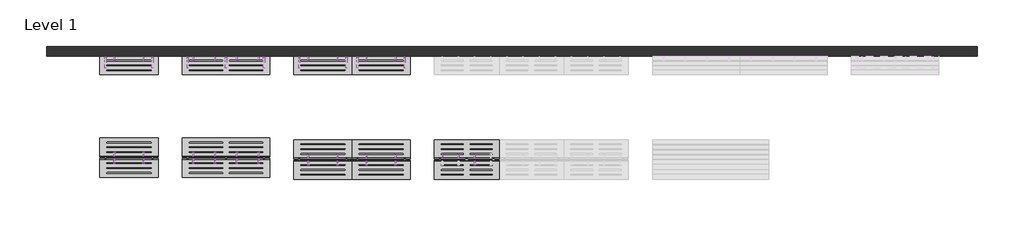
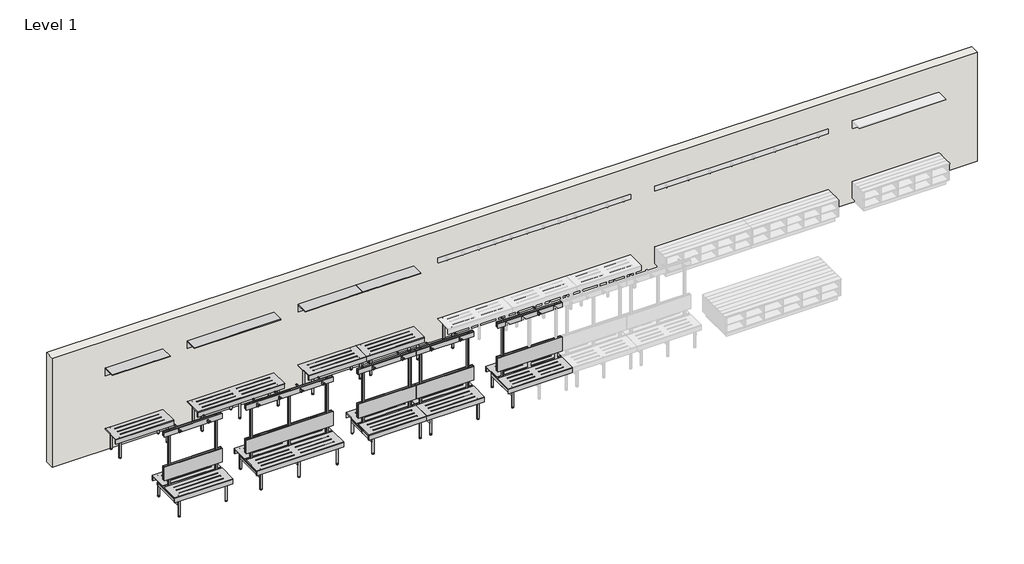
# One storey, part 1 of 2: 72 furniture elements, 1 wall.
"""IFC4 building model written with IfcOpenShell, lengths in millimetres."""

from ifc_helpers import new_model, si_unit, origin, origin_with_axes, place, context, project, spatial, polyline, outline, extrude, transform, mapped, element, save
from components import bracket_7d752e66, standard_dd65e5c9, standard_a7376189, standard_561e798c, standard_2dcb62da, standard_f5ae554c, standard_908f37bb, standard_f786651c, standard_a5d48519, standard_e0fe0424, standard_9dd12805

model = new_model("IFC4")

# Units and contexts
model_context = context("Model", 3, world=origin())
ifc_project = project(units=[si_unit("LENGTHUNIT", "METRE", prefix="MILLI")], contexts=[model_context])

# Site, building, storey
site = spatial("IfcSite", under=ifc_project)
building = spatial("IfcBuilding", under=site)
storey = spatial("IfcBuildingStorey", under=building, Name="Level 1", Elevation=0.0)

# Furniture
placement = place(None, origin())
bracket_shape = bracket_7d752e66(model_context)
element("IfcFurniture", 1, ObjectType="X_Bench-Bracket-Duracube-Shelving : Bracket", at=placement, inside=storey, context=model_context, shape_type="MappedRepresentation", body=[
    mapped(bracket_shape, transform((-13169.1683896, 4193.679514, 1717.0), x_axis=(1.0, 0.0, 0.0), y_axis=(0.0, 0.0, 1.0), z_axis=(0.0, -1.0, 0.0))),
])
element("IfcFurniture", 2, ObjectType="X_Bench-Bracket-Duracube-Shelving : Bracket", at=placement, inside=storey, context=model_context, shape_type="MappedRepresentation", body=[
    mapped(bracket_shape, transform((-12382.6683896, 4193.679514, 1717.0), x_axis=(1.0, 0.0, 0.0), y_axis=(0.0, 0.0, 1.0), z_axis=(0.0, -1.0, 0.0))),
])
element("IfcFurniture", 3, ObjectType="X_Bench-Bracket-Duracube-Shelving : Bracket", at=placement, inside=storey, context=model_context, shape_type="MappedRepresentation", body=[
    mapped(bracket_shape, transform((-11596.1683896, 4193.679514, 1717.0), x_axis=(1.0, 0.0, 0.0), y_axis=(0.0, 0.0, 1.0), z_axis=(0.0, -1.0, 0.0))),
])
element("IfcFurniture", 4, ObjectType="X_Bench-Bracket-Duracube-Shelving : Bracket", at=placement, inside=storey, context=model_context, shape_type="MappedRepresentation", body=[
    mapped(bracket_shape, transform((-9669.1683896, 4193.679514, 1717.0), x_axis=(1.0, 0.0, 0.0), y_axis=(0.0, 0.0, 1.0), z_axis=(0.0, -1.0, 0.0))),
])
element("IfcFurniture", 5, ObjectType="X_Bench-Bracket-Duracube-Shelving : Bracket", at=placement, inside=storey, context=model_context, shape_type="MappedRepresentation", body=[
    mapped(bracket_shape, transform((-8696.1683896, 4193.679514, 1717.0), x_axis=(1.0, 0.0, 0.0), y_axis=(0.0, 0.0, 1.0), z_axis=(0.0, -1.0, 0.0))),
])
element("IfcFurniture", 6, ObjectType="X_Bench-Bracket-Duracube-Shelving : Bracket", at=placement, inside=storey, context=model_context, shape_type="MappedRepresentation", body=[
    mapped(bracket_shape, transform((-10869.1683896, 4193.679514, 1717.0), x_axis=(1.0, 0.0, 0.0), y_axis=(0.0, 0.0, 1.0), z_axis=(0.0, -1.0, 0.0))),
])
element("IfcFurniture", 7, ObjectType="X_Bench-Bracket-Duracube-Shelving : Bracket", at=placement, inside=storey, context=model_context, shape_type="MappedRepresentation", body=[
    mapped(bracket_shape, transform((-9896.1683896, 4193.679514, 1717.0), x_axis=(1.0, 0.0, 0.0), y_axis=(0.0, 0.0, 1.0), z_axis=(0.0, -1.0, 0.0))),
])
element("IfcFurniture", 8, ObjectType="X_Bench-Bracket-Duracube-Shelving : Bracket", at=placement, inside=storey, context=model_context, shape_type="MappedRepresentation", body=[
    mapped(bracket_shape, transform((-14869.1683896, 4193.679514, 1717.0), x_axis=(1.0, 0.0, 0.0), y_axis=(0.0, 0.0, 1.0), z_axis=(0.0, -1.0, 0.0))),
])
element("IfcFurniture", 9, ObjectType="X_Bench-Bracket-Duracube-Shelving : Bracket", at=placement, inside=storey, context=model_context, shape_type="MappedRepresentation", body=[
    mapped(bracket_shape, transform((-13896.1683896, 4193.679514, 1717.0), x_axis=(1.0, 0.0, 0.0), y_axis=(0.0, 0.0, 1.0), z_axis=(0.0, -1.0, 0.0))),
])
standard_shape = standard_dd65e5c9(model_context)
element("IfcFurniture", 10, ObjectType="X_Partition-Robe Hook-Duracube-Door Stop : Standard", at=placement, inside=storey, context=model_context, shape_type="MappedRepresentation", body=[
    mapped(standard_shape, transform((-12157.6683896, 2137.179514, 1619.5), x_axis=(-1.0, 0.0, 0.0), y_axis=(0.0, 0.0, 1.0), z_axis=(0.0, 1.0, 0.0))),
])
element("IfcFurniture", 11, ObjectType="X_Partition-Robe Hook-Duracube-Door Stop : Standard", at=placement, inside=storey, context=model_context, shape_type="MappedRepresentation", body=[
    mapped(standard_shape, transform((-12607.6683896, 2137.179514, 1619.5), x_axis=(-1.0, 0.0, 0.0), y_axis=(0.0, 0.0, 1.0), z_axis=(0.0, 1.0, 0.0))),
])
element("IfcFurniture", 12, ObjectType="X_Partition-Robe Hook-Duracube-Door Stop : Standard", at=placement, inside=storey, context=model_context, shape_type="MappedRepresentation", body=[
    mapped(standard_shape, transform((-11707.6683896, 2137.179514, 1619.5), x_axis=(-1.0, 0.0, 0.0), y_axis=(0.0, 0.0, 1.0), z_axis=(0.0, 1.0, 0.0))),
])
element("IfcFurniture", 13, ObjectType="X_Partition-Robe Hook-Duracube-Door Stop : Standard", at=placement, inside=storey, context=model_context, shape_type="MappedRepresentation", body=[
    mapped(standard_shape, transform((-13057.6683896, 2137.179514, 1619.5), x_axis=(-1.0, 0.0, 0.0), y_axis=(0.0, 0.0, 1.0), z_axis=(0.0, 1.0, 0.0))),
])
element("IfcFurniture", 14, ObjectType="X_Partition-Robe Hook-Duracube-Door Stop : Standard", at=placement, inside=storey, context=model_context, shape_type="MappedRepresentation", body=[
    mapped(standard_shape, transform((-12157.6683896, 2076.179514, 1619.5), x_axis=(1.0, 0.0, 0.0), y_axis=(0.0, 0.0, 1.0), z_axis=(0.0, -1.0, 0.0))),
])
element("IfcFurniture", 15, ObjectType="X_Partition-Robe Hook-Duracube-Door Stop : Standard", at=placement, inside=storey, context=model_context, shape_type="MappedRepresentation", body=[
    mapped(standard_shape, transform((-12607.6683896, 2076.179514, 1619.5), x_axis=(1.0, 0.0, 0.0), y_axis=(0.0, 0.0, 1.0), z_axis=(0.0, -1.0, 0.0))),
])
element("IfcFurniture", 16, ObjectType="X_Partition-Robe Hook-Duracube-Door Stop : Standard", at=placement, inside=storey, context=model_context, shape_type="MappedRepresentation", body=[
    mapped(standard_shape, transform((-11707.6683896, 2076.179514, 1619.5), x_axis=(1.0, 0.0, 0.0), y_axis=(0.0, 0.0, 1.0), z_axis=(0.0, -1.0, 0.0))),
])
element("IfcFurniture", 17, ObjectType="X_Partition-Robe Hook-Duracube-Door Stop : Standard", at=placement, inside=storey, context=model_context, shape_type="MappedRepresentation", body=[
    mapped(standard_shape, transform((-13057.6683896, 2076.179514, 1619.5), x_axis=(1.0, 0.0, 0.0), y_axis=(0.0, 0.0, 1.0), z_axis=(0.0, -1.0, 0.0))),
])
element("IfcFurniture", 18, ObjectType="X_Partition-Robe Hook-Duracube-Door Stop : Standard", at=placement, inside=storey, context=model_context, shape_type="MappedRepresentation", body=[
    mapped(standard_shape, transform((-8882.6683896, 2099.9051004, 1619.5), x_axis=(-1.0, 0.0, 0.0), y_axis=(0.0, 0.0, 1.0), z_axis=(0.0, 1.0, 0.0))),
])
element("IfcFurniture", 19, ObjectType="X_Partition-Robe Hook-Duracube-Door Stop : Standard", at=placement, inside=storey, context=model_context, shape_type="MappedRepresentation", body=[
    mapped(standard_shape, transform((-9482.6683896, 2099.9051004, 1619.5), x_axis=(-1.0, 0.0, 0.0), y_axis=(0.0, 0.0, 1.0), z_axis=(0.0, 1.0, 0.0))),
])
element("IfcFurniture", 20, ObjectType="X_Partition-Robe Hook-Duracube-Door Stop : Standard", at=placement, inside=storey, context=model_context, shape_type="MappedRepresentation", body=[
    mapped(standard_shape, transform((-8882.6683896, 2038.9051004, 1619.5), x_axis=(1.0, 0.0, 0.0), y_axis=(0.0, 0.0, 1.0), z_axis=(0.0, -1.0, 0.0))),
])
element("IfcFurniture", 21, ObjectType="X_Partition-Robe Hook-Duracube-Door Stop : Standard", at=placement, inside=storey, context=model_context, shape_type="MappedRepresentation", body=[
    mapped(standard_shape, transform((-9482.6683896, 2038.9051004, 1619.5), x_axis=(1.0, 0.0, 0.0), y_axis=(0.0, 0.0, 1.0), z_axis=(0.0, -1.0, 0.0))),
])
element("IfcFurniture", 22, ObjectType="X_Partition-Robe Hook-Duracube-Door Stop : Standard", at=placement, inside=storey, context=model_context, shape_type="MappedRepresentation", body=[
    mapped(standard_shape, transform((-10082.6683896, 2099.9051004, 1619.5), x_axis=(-1.0, 0.0, 0.0), y_axis=(0.0, 0.0, 1.0), z_axis=(0.0, 1.0, 0.0))),
])
element("IfcFurniture", 23, ObjectType="X_Partition-Robe Hook-Duracube-Door Stop : Standard", at=placement, inside=storey, context=model_context, shape_type="MappedRepresentation", body=[
    mapped(standard_shape, transform((-10682.6683896, 2099.9051004, 1619.5), x_axis=(-1.0, 0.0, 0.0), y_axis=(0.0, 0.0, 1.0), z_axis=(0.0, 1.0, 0.0))),
])
element("IfcFurniture", 24, ObjectType="X_Partition-Robe Hook-Duracube-Door Stop : Standard", at=placement, inside=storey, context=model_context, shape_type="MappedRepresentation", body=[
    mapped(standard_shape, transform((-10082.6683896, 2038.9051004, 1619.5), x_axis=(1.0, 0.0, 0.0), y_axis=(0.0, 0.0, 1.0), z_axis=(0.0, -1.0, 0.0))),
])
element("IfcFurniture", 25, ObjectType="X_Partition-Robe Hook-Duracube-Door Stop : Standard", at=placement, inside=storey, context=model_context, shape_type="MappedRepresentation", body=[
    mapped(standard_shape, transform((-10682.6683896, 2038.9051004, 1619.5), x_axis=(1.0, 0.0, 0.0), y_axis=(0.0, 0.0, 1.0), z_axis=(0.0, -1.0, 0.0))),
])
element("IfcFurniture", 26, ObjectType="X_Partition-Robe Hook-Duracube-Door Stop : Standard", at=placement, inside=storey, context=model_context, shape_type="MappedRepresentation", body=[
    mapped(standard_shape, transform((-7249.3350563, 2099.9051004, 1619.5), x_axis=(-1.0, 0.0, 0.0), y_axis=(0.0, 0.0, 1.0), z_axis=(0.0, 1.0, 0.0))),
])
element("IfcFurniture", 27, ObjectType="X_Partition-Robe Hook-Duracube-Door Stop : Standard", at=placement, inside=storey, context=model_context, shape_type="MappedRepresentation", body=[
    mapped(standard_shape, transform((-7582.6683896, 2099.9051004, 1619.5), x_axis=(-1.0, 0.0, 0.0), y_axis=(0.0, 0.0, 1.0), z_axis=(0.0, 1.0, 0.0))),
])
element("IfcFurniture", 28, ObjectType="X_Partition-Robe Hook-Duracube-Door Stop : Standard", at=placement, inside=storey, context=model_context, shape_type="MappedRepresentation", body=[
    mapped(standard_shape, transform((-7916.001723, 2099.9051004, 1619.5), x_axis=(-1.0, 0.0, 0.0), y_axis=(0.0, 0.0, 1.0), z_axis=(0.0, 1.0, 0.0))),
])
element("IfcFurniture", 29, ObjectType="X_Partition-Robe Hook-Duracube-Door Stop : Standard", at=placement, inside=storey, context=model_context, shape_type="MappedRepresentation", body=[
    mapped(standard_shape, transform((-7249.3350563, 2038.9051004, 1619.5), x_axis=(1.0, 0.0, 0.0), y_axis=(0.0, 0.0, 1.0), z_axis=(0.0, -1.0, 0.0))),
])
element("IfcFurniture", 30, ObjectType="X_Partition-Robe Hook-Duracube-Door Stop : Standard", at=placement, inside=storey, context=model_context, shape_type="MappedRepresentation", body=[
    mapped(standard_shape, transform((-12157.6683896, 4193.679514, 1686.5), x_axis=(1.0, 0.0, 0.0), y_axis=(0.0, 0.0, 1.0), z_axis=(0.0, -1.0, 0.0))),
])
element("IfcFurniture", 31, ObjectType="X_Partition-Robe Hook-Duracube-Door Stop : Standard", at=placement, inside=storey, context=model_context, shape_type="MappedRepresentation", body=[
    mapped(standard_shape, transform((-12607.6683896, 4193.679514, 1686.5), x_axis=(1.0, 0.0, 0.0), y_axis=(0.0, 0.0, 1.0), z_axis=(0.0, -1.0, 0.0))),
])
element("IfcFurniture", 32, ObjectType="X_Partition-Robe Hook-Duracube-Door Stop : Standard", at=placement, inside=storey, context=model_context, shape_type="MappedRepresentation", body=[
    mapped(standard_shape, transform((-11707.6683896, 4193.679514, 1686.5), x_axis=(1.0, 0.0, 0.0), y_axis=(0.0, 0.0, 1.0), z_axis=(0.0, -1.0, 0.0))),
])
element("IfcFurniture", 33, ObjectType="X_Partition-Robe Hook-Duracube-Door Stop : Standard", at=placement, inside=storey, context=model_context, shape_type="MappedRepresentation", body=[
    mapped(standard_shape, transform((-13057.6683896, 4193.679514, 1686.5), x_axis=(1.0, 0.0, 0.0), y_axis=(0.0, 0.0, 1.0), z_axis=(0.0, -1.0, 0.0))),
])
element("IfcFurniture", 34, ObjectType="X_Partition-Robe Hook-Duracube-Door Stop : Standard", at=placement, inside=storey, context=model_context, shape_type="MappedRepresentation", body=[
    mapped(standard_shape, transform((-8882.6683896, 4193.679514, 1686.5), x_axis=(1.0, 0.0, 0.0), y_axis=(0.0, 0.0, 1.0), z_axis=(0.0, -1.0, 0.0))),
])
element("IfcFurniture", 35, ObjectType="X_Partition-Robe Hook-Duracube-Door Stop : Standard", at=placement, inside=storey, context=model_context, shape_type="MappedRepresentation", body=[
    mapped(standard_shape, transform((-9482.6683896, 4193.679514, 1686.5), x_axis=(1.0, 0.0, 0.0), y_axis=(0.0, 0.0, 1.0), z_axis=(0.0, -1.0, 0.0))),
])
element("IfcFurniture", 36, ObjectType="X_Partition-Robe Hook-Duracube-Door Stop : Standard", at=placement, inside=storey, context=model_context, shape_type="MappedRepresentation", body=[
    mapped(standard_shape, transform((-10082.6683896, 4193.679514, 1686.5), x_axis=(1.0, 0.0, 0.0), y_axis=(0.0, 0.0, 1.0), z_axis=(0.0, -1.0, 0.0))),
])
element("IfcFurniture", 37, ObjectType="X_Partition-Robe Hook-Duracube-Door Stop : Standard", at=placement, inside=storey, context=model_context, shape_type="MappedRepresentation", body=[
    mapped(standard_shape, transform((-10682.6683896, 4193.679514, 1686.5), x_axis=(1.0, 0.0, 0.0), y_axis=(0.0, 0.0, 1.0), z_axis=(0.0, -1.0, 0.0))),
])
element("IfcFurniture", 38, ObjectType="X_Partition-Robe Hook-Duracube-Door Stop : Standard", at=placement, inside=storey, context=model_context, shape_type="MappedRepresentation", body=[
    mapped(standard_shape, transform((-14082.6683896, 2137.179514, 1619.5), x_axis=(-1.0, 0.0, 0.0), y_axis=(0.0, 0.0, 1.0), z_axis=(0.0, 1.0, 0.0))),
])
element("IfcFurniture", 39, ObjectType="X_Partition-Robe Hook-Duracube-Door Stop : Standard", at=placement, inside=storey, context=model_context, shape_type="MappedRepresentation", body=[
    mapped(standard_shape, transform((-14682.6683896, 2137.179514, 1619.5), x_axis=(-1.0, 0.0, 0.0), y_axis=(0.0, 0.0, 1.0), z_axis=(0.0, 1.0, 0.0))),
])
element("IfcFurniture", 40, ObjectType="X_Partition-Robe Hook-Duracube-Door Stop : Standard", at=placement, inside=storey, context=model_context, shape_type="MappedRepresentation", body=[
    mapped(standard_shape, transform((-14082.6683896, 2076.179514, 1619.5), x_axis=(1.0, 0.0, 0.0), y_axis=(0.0, 0.0, 1.0), z_axis=(0.0, -1.0, 0.0))),
])
element("IfcFurniture", 41, ObjectType="X_Partition-Robe Hook-Duracube-Door Stop : Standard", at=placement, inside=storey, context=model_context, shape_type="MappedRepresentation", body=[
    mapped(standard_shape, transform((-14682.6683896, 2076.179514, 1619.5), x_axis=(1.0, 0.0, 0.0), y_axis=(0.0, 0.0, 1.0), z_axis=(0.0, -1.0, 0.0))),
])
element("IfcFurniture", 42, ObjectType="X_Partition-Robe Hook-Duracube-Door Stop : Standard", at=placement, inside=storey, context=model_context, shape_type="MappedRepresentation", body=[
    mapped(standard_shape, transform((-14082.6683896, 4193.679514, 1686.5), x_axis=(1.0, 0.0, 0.0), y_axis=(0.0, 0.0, 1.0), z_axis=(0.0, -1.0, 0.0))),
])
element("IfcFurniture", 43, ObjectType="X_Partition-Robe Hook-Duracube-Door Stop : Standard", at=placement, inside=storey, context=model_context, shape_type="MappedRepresentation", body=[
    mapped(standard_shape, transform((-14682.6683896, 4193.679514, 1686.5), x_axis=(1.0, 0.0, 0.0), y_axis=(0.0, 0.0, 1.0), z_axis=(0.0, -1.0, 0.0))),
])
standard_2_shape = standard_a7376189(model_context)
element("IfcFurniture", 44, ObjectType="X_Bench-Foot-Duracube-Assembly : Standard", at=placement, inside=storey, context=model_context, shape_type="MappedRepresentation", body=[
    mapped(standard_2_shape, transform((-13213.8687161, 2499.179514, 0.0), x_axis=(1.0, 0.0, 0.0), y_axis=(0.0, 1.0, 0.0), z_axis=(0.0, 0.0, 1.0))),
])
element("IfcFurniture", 45, ObjectType="X_Bench-Foot-Duracube-Assembly : Standard", at=placement, inside=storey, context=model_context, shape_type="MappedRepresentation", body=[
    mapped(standard_2_shape, transform((-12427.3687161, 2499.179514, 0.0), x_axis=(1.0, 0.0, 0.0), y_axis=(0.0, 1.0, 0.0), z_axis=(0.0, 0.0, 1.0))),
])
element("IfcFurniture", 46, ObjectType="X_Bench-Foot-Duracube-Assembly : Standard", at=placement, inside=storey, context=model_context, shape_type="MappedRepresentation", body=[
    mapped(standard_2_shape, transform((-9713.8687161, 2461.9051004, 0.0), x_axis=(1.0, 0.0, 0.0), y_axis=(0.0, 1.0, 0.0), z_axis=(0.0, 0.0, 1.0))),
])
element("IfcFurniture", 47, ObjectType="X_Bench-Foot-Duracube-Assembly : Standard", at=placement, inside=storey, context=model_context, shape_type="MappedRepresentation", body=[
    mapped(standard_2_shape, transform((-10913.8687161, 2461.9051004, 0.0), x_axis=(1.0, 0.0, 0.0), y_axis=(0.0, 1.0, 0.0), z_axis=(0.0, 0.0, 1.0))),
])
element("IfcFurniture", 48, ObjectType="X_Bench-Foot-Duracube-Assembly : Standard", at=placement, inside=storey, context=model_context, shape_type="MappedRepresentation", body=[
    mapped(standard_2_shape, transform((-8013.8687161, 2461.9051004, 0.0), x_axis=(1.0, 0.0, 0.0), y_axis=(0.0, 1.0, 0.0), z_axis=(0.0, 0.0, 1.0))),
])
element("IfcFurniture", 49, ObjectType="X_Bench-Foot-Duracube-Assembly : Standard", at=placement, inside=storey, context=model_context, shape_type="MappedRepresentation", body=[
    mapped(standard_2_shape, transform((-14913.8687161, 2499.179514, 0.0), x_axis=(1.0, 0.0, 0.0), y_axis=(0.0, 1.0, 0.0), z_axis=(0.0, 0.0, 1.0))),
])
standard_3_shape = standard_561e798c(model_context)
element("IfcFurniture", 50, ObjectType="X_Bench-Foot-Duracube-Assembly : Standard", at=placement, inside=storey, context=model_context, shape_type="MappedRepresentation", body=[
    mapped(standard_3_shape, transform((-11551.4680632, 2499.179514, 0.0), x_axis=(-1.0, 0.0, 0.0), y_axis=(0.0, -1.0, 0.0), z_axis=(0.0, 0.0, 1.0))),
])
element("IfcFurniture", 51, ObjectType="X_Bench-Foot-Duracube-Assembly : Standard", at=placement, inside=storey, context=model_context, shape_type="MappedRepresentation", body=[
    mapped(standard_3_shape, transform((-8651.4680632, 2461.9051004, 0.0), x_axis=(-1.0, 0.0, 0.0), y_axis=(0.0, -1.0, 0.0), z_axis=(0.0, 0.0, 1.0))),
])
element("IfcFurniture", 52, ObjectType="X_Bench-Foot-Duracube-Assembly : Standard", at=placement, inside=storey, context=model_context, shape_type="MappedRepresentation", body=[
    mapped(standard_3_shape, transform((-9851.4680632, 2461.9051004, 0.0), x_axis=(-1.0, 0.0, 0.0), y_axis=(0.0, -1.0, 0.0), z_axis=(0.0, 0.0, 1.0))),
])
element("IfcFurniture", 53, ObjectType="X_Bench-Foot-Duracube-Assembly : Standard", at=placement, inside=storey, context=model_context, shape_type="MappedRepresentation", body=[
    mapped(standard_3_shape, transform((-13851.4680632, 2499.179514, 0.0), x_axis=(-1.0, 0.0, 0.0), y_axis=(0.0, -1.0, 0.0), z_axis=(0.0, 0.0, 1.0))),
])
standard_4_shape = standard_2dcb62da(model_context)
element("IfcFurniture", 54, ObjectType="X_Bench-Foot-Duracube-Wall Assembly : Standard", at=placement, inside=storey, context=model_context, shape_type="MappedRepresentation", body=[
    mapped(standard_4_shape, transform((-13213.8687161, 4206.679514, 0.0), x_axis=(1.0, 0.0, 0.0), y_axis=(0.0, 1.0, 0.0), z_axis=(0.0, 0.0, 1.0))),
])
element("IfcFurniture", 55, ObjectType="X_Bench-Foot-Duracube-Wall Assembly : Standard", at=placement, inside=storey, context=model_context, shape_type="MappedRepresentation", body=[
    mapped(standard_4_shape, transform((-12427.3687161, 4206.679514, 0.0), x_axis=(1.0, 0.0, 0.0), y_axis=(0.0, 1.0, 0.0), z_axis=(0.0, 0.0, 1.0))),
])
element("IfcFurniture", 56, ObjectType="X_Bench-Foot-Duracube-Wall Assembly : Standard", at=placement, inside=storey, context=model_context, shape_type="MappedRepresentation", body=[
    mapped(standard_4_shape, transform((-9713.8687161, 4206.679514, 0.0), x_axis=(1.0, 0.0, 0.0), y_axis=(0.0, 1.0, 0.0), z_axis=(0.0, 0.0, 1.0))),
])
element("IfcFurniture", 57, ObjectType="X_Bench-Foot-Duracube-Wall Assembly : Standard", at=placement, inside=storey, context=model_context, shape_type="MappedRepresentation", body=[
    mapped(standard_4_shape, transform((-10913.8687161, 4206.679514, 0.0), x_axis=(1.0, 0.0, 0.0), y_axis=(0.0, 1.0, 0.0), z_axis=(0.0, 0.0, 1.0))),
])
element("IfcFurniture", 58, ObjectType="X_Bench-Foot-Duracube-Wall Assembly : Standard", at=placement, inside=storey, context=model_context, shape_type="MappedRepresentation", body=[
    mapped(standard_4_shape, transform((-8013.8687161, 4206.679514, 0.0), x_axis=(1.0, 0.0, 0.0), y_axis=(0.0, 1.0, 0.0), z_axis=(0.0, 0.0, 1.0))),
])
element("IfcFurniture", 59, ObjectType="X_Bench-Foot-Duracube-Wall Assembly : Standard", at=placement, inside=storey, context=model_context, shape_type="MappedRepresentation", body=[
    mapped(standard_4_shape, transform((-14913.8687161, 4206.679514, 0.0), x_axis=(1.0, 0.0, 0.0), y_axis=(0.0, 1.0, 0.0), z_axis=(0.0, 0.0, 1.0))),
])
standard_5_shape = standard_f5ae554c(model_context)
element("IfcFurniture", 60, ObjectType="X_Bench-Foot-Duracube-Wall Assembly : Standard", at=placement, inside=storey, context=model_context, shape_type="MappedRepresentation", body=[
    mapped(standard_5_shape, transform((-11551.4680632, 4206.679514, 0.0), x_axis=(-1.0, 0.0, 0.0), y_axis=(0.0, -1.0, 0.0), z_axis=(0.0, 0.0, 1.0))),
])
element("IfcFurniture", 61, ObjectType="X_Bench-Foot-Duracube-Wall Assembly : Standard", at=placement, inside=storey, context=model_context, shape_type="MappedRepresentation", body=[
    mapped(standard_5_shape, transform((-8651.4680632, 4206.679514, 0.0), x_axis=(-1.0, 0.0, 0.0), y_axis=(0.0, -1.0, 0.0), z_axis=(0.0, 0.0, 1.0))),
])
element("IfcFurniture", 62, ObjectType="X_Bench-Foot-Duracube-Wall Assembly : Standard", at=placement, inside=storey, context=model_context, shape_type="MappedRepresentation", body=[
    mapped(standard_5_shape, transform((-9851.4680632, 4206.679514, 0.0), x_axis=(-1.0, 0.0, 0.0), y_axis=(0.0, -1.0, 0.0), z_axis=(0.0, 0.0, 1.0))),
])
element("IfcFurniture", 63, ObjectType="X_Bench-Foot-Duracube-Wall Assembly : Standard", at=placement, inside=storey, context=model_context, shape_type="MappedRepresentation", body=[
    mapped(standard_5_shape, transform((-13851.4680632, 4206.679514, 0.0), x_axis=(-1.0, 0.0, 0.0), y_axis=(0.0, -1.0, 0.0), z_axis=(0.0, 0.0, 1.0))),
])
standard_6_shape = standard_908f37bb(model_context)
element("IfcFurniture", 64, ObjectType="X_Bench-Wall-Duracube-Standard : Standard", at=placement, inside=storey, context=model_context, shape_type="MappedRepresentation", body=[
    mapped(standard_6_shape, transform((-12427.3687161, 4614.179514, 0.0), x_axis=(1.0, 0.0, 0.0), y_axis=(0.0, 1.0, 0.0), z_axis=(0.0, 0.0, 1.0))),
])
standard_7_shape = standard_f786651c(model_context)
element("IfcFurniture", 65, ObjectType="X_Bench-Wall-Duracube-Standard : Standard", at=placement, inside=storey, context=model_context, shape_type="MappedRepresentation", body=[
    mapped(standard_7_shape, transform((-9227.3687161, 4614.179514, 0.0), x_axis=(1.0, 0.0, 0.0), y_axis=(0.0, 1.0, 0.0), z_axis=(0.0, 0.0, 1.0))),
])
element("IfcFurniture", 66, ObjectType="X_Bench-Wall-Duracube-Standard : Standard", at=placement, inside=storey, context=model_context, shape_type="MappedRepresentation", body=[
    mapped(standard_7_shape, transform((-10427.3687161, 4614.179514, 0.0), x_axis=(1.0, 0.0, 0.0), y_axis=(0.0, 1.0, 0.0), z_axis=(0.0, 0.0, 1.0))),
])
element("IfcFurniture", 67, ObjectType="X_Bench-Wall-Duracube-Standard : Standard", at=placement, inside=storey, context=model_context, shape_type="MappedRepresentation", body=[
    mapped(standard_7_shape, transform((-14427.3687161, 4614.179514, 0.0), x_axis=(1.0, 0.0, 0.0), y_axis=(0.0, 1.0, 0.0), z_axis=(0.0, 0.0, 1.0))),
])
standard_8_shape = standard_a5d48519(model_context)
element("IfcFurniture", 68, ObjectType="X_Bench-Island-Duracube-Standard : Standard", at=placement, inside=storey, context=model_context, shape_type="MappedRepresentation", body=[
    mapped(standard_8_shape, transform((-12427.3687161, 2514.179514, 0.0), x_axis=(1.0, 0.0, 0.0), y_axis=(0.0, 1.0, 0.0), z_axis=(0.0, 0.0, 1.0))),
])
standard_9_shape = standard_e0fe0424(model_context)
element("IfcFurniture", 69, ObjectType="X_Bench-Island-Duracube-Standard : Standard", at=placement, inside=storey, context=model_context, shape_type="MappedRepresentation", body=[
    mapped(standard_9_shape, transform((-9227.3687161, 2476.9051004, 0.0), x_axis=(1.0, 0.0, 0.0), y_axis=(0.0, 1.0, 0.0), z_axis=(0.0, 0.0, 1.0))),
])
element("IfcFurniture", 70, ObjectType="X_Bench-Island-Duracube-Standard : Standard", at=placement, inside=storey, context=model_context, shape_type="MappedRepresentation", body=[
    mapped(standard_9_shape, transform((-10427.3687161, 2476.9051004, 0.0), x_axis=(1.0, 0.0, 0.0), y_axis=(0.0, 1.0, 0.0), z_axis=(0.0, 0.0, 1.0))),
])
element("IfcFurniture", 71, ObjectType="X_Bench-Island-Duracube-Standard : Standard", at=placement, inside=storey, context=model_context, shape_type="MappedRepresentation", body=[
    mapped(standard_9_shape, transform((-14427.3687161, 2514.179514, 0.0), x_axis=(1.0, 0.0, 0.0), y_axis=(0.0, 1.0, 0.0), z_axis=(0.0, 0.0, 1.0))),
])
standard_10_shape = standard_9dd12805(model_context)
element("IfcFurniture", 72, ObjectType="X_Bench-Island-Duracube-Standard : Standard", at=placement, inside=storey, context=model_context, shape_type="MappedRepresentation", body=[
    mapped(standard_10_shape, transform((-7460.7020494, 2476.9051004, 0.0), x_axis=(1.0, 0.0, 0.0), y_axis=(0.0, 1.0, 0.0), z_axis=(0.0, 0.0, 1.0))),
])

# Wall
element("IfcWall", 73, ObjectType="Generic - 200mm", at=placement, inside=storey, context=model_context, shape_type="SweptSolid", body=[
    extrude(outline(polyline([(3117.3316104, 4206.679514), (-16082.6683896, 4206.679514), (-16082.6683896, 4406.679514), (3117.3316104, 4406.679514), (3117.3316104, 4206.679514)])), origin_with_axes(), (0.0, 0.0, 1.0), 2400.0),
])

save(model, "model.ifc")
